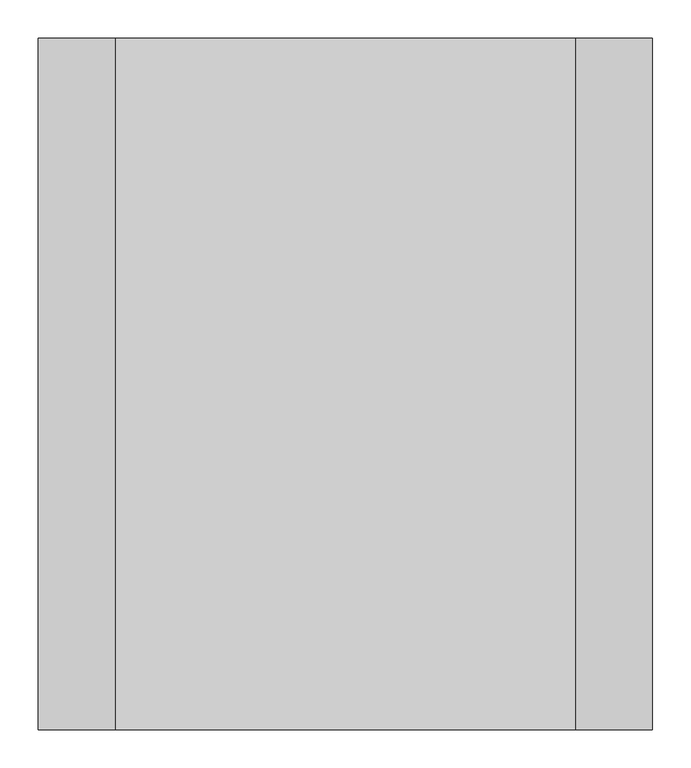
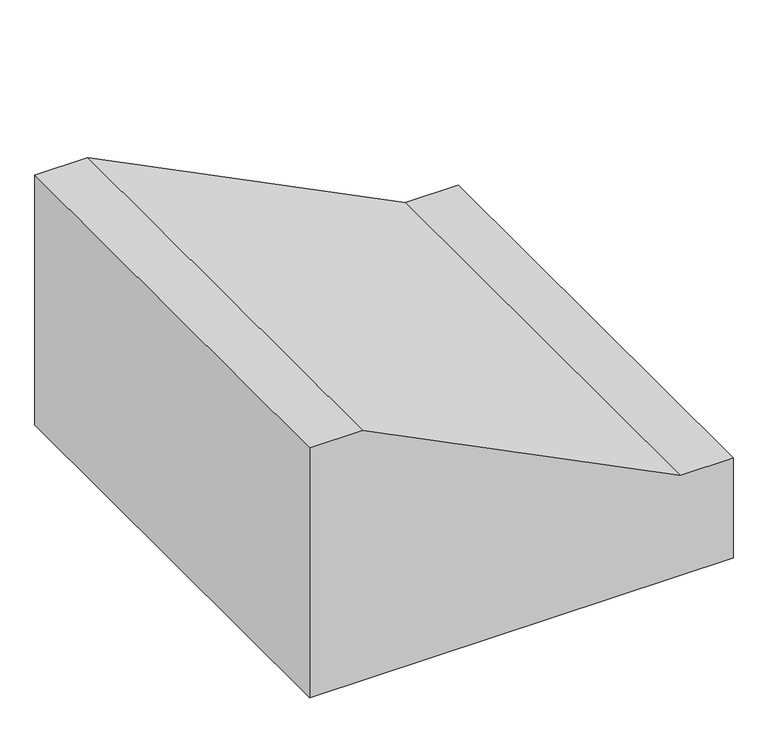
"""IFC4 building model written with IfcOpenShell, lengths in millimetres: duct fitting geometry, 2017_Reducción_Climaver_Reducción-Rectangular-a-una-cara-horizontal-en-U : Reducción en U a cara horizontal."""

from ifc_helpers import new_model, si_unit, frame, origin, place, context, project, spatial, polyline, outline, extrude, source, transform, mapped, element, save


def duct_fitting_cc92ef2a(model_context):
    return source(origin(), model_context, "Body", "SweptSolid", [
        extrude(outline(polyline([(250.0, -400.0), (-250.0, -400.0), (-250.0, 400.0), (-50.0, 400.0), (-50.0, 300.0), (250.0, -300.0), (250.0, -400.0)])), frame((0.0, -450.0, 0.0), z_axis=(0.0, 1.0, 0.0), x_axis=(0.0, 0.0, 1.0)), (0.0, 0.0, 1.0), 900.0),
    ])


if __name__ == "__main__":
    model = new_model("IFC4")
    model_context = context("Model", 3, world=origin())
    ifc_project = project(units=[si_unit("LENGTHUNIT", "METRE", prefix="MILLI")], contexts=[model_context])
    site = spatial("IfcSite", under=ifc_project)
    building = spatial("IfcBuilding", under=site)
    placement = place(None, origin())
    duct_fitting_shape = duct_fitting_cc92ef2a(model_context)
    element("IfcDuctFitting", 1, ObjectType="2017_Reducción_Climaver_Reducción-Rectangular-a-una-cara-horizontal-en-U : Reducción en U a cara horizontal", at=placement, inside=building, context=model_context, shape_type="MappedRepresentation", body=[
        mapped(duct_fitting_shape, transform((0.0, 0.0, 0.0), x_axis=(1.0, 0.0, 0.0), y_axis=(0.0, 1.0, 0.0), z_axis=(0.0, 0.0, 1.0))),
    ])
    save(model, "model.ifc")
